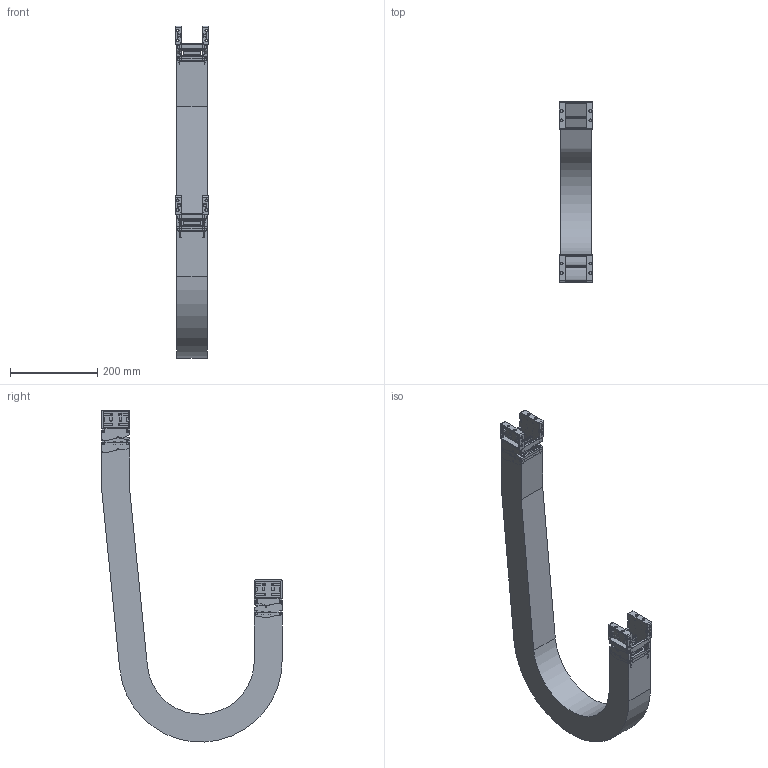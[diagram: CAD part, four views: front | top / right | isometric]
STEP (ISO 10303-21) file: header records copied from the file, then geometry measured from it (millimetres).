
FILE_DESCRIPTION((''),'2;1');
FILE_NAME('KST-50050-150_ASM','2017-12-07T',('KUNI004K'),(''),'PRO/ENGINEER BY PARAMETRIC TECHNOLOGY CORPORATION, 2015200','PRO/ENGINEER BY PARAMETRIC TECHNOLOGY CORPORATION, 2015200','');
FILE_SCHEMA(('AUTOMOTIVE_DESIGN { 1 0 10303 214 1 1 1 1 }'));
Products named in the file (13): 50FBR; 50FBL; 40050C; KST50FB_W050_ASM; KST50150R; KST50150L; 40050H; KST50050-150_1_ASM; KST50050_R150_BODY; 50MBR; 50MBL; KST50MB_W050_ASM; KST-50050-150_ASM
Assembly tree (19 placements, depth 3):
  KST-50050-150_ASM
    KST50FB_W050_ASM
      50FBR
      50FBL
      40050C  x2
    KST50050-150_1_ASM  x2
      KST50150R
      KST50150L
      40050C
      40050H
    KST50050_R150_BODY
    KST50MB_W050_ASM
      50MBR
      50MBL
      40050C  x2
Bounding box: 78 x 414 x 762.32 mm (x, y, z)
Volume: 2344745.4 mm3; surface area: 751058.7 mm2
Topology: 21 solids, 21 shells, 2632 faces, 7134 edges, 4572 vertices
Faces by surface type: plane 1342, cylinder 914, bspline 312, torus 64
Entity records: 66282 total; most frequent: CARTESIAN_POINT 13630, ORIENTED_EDGE 7064, DIRECTION 6382, PRESENTATION_STYLE_ASSIGNMENT 4824, STYLED_ITEM 4824, CURVE_STYLE 3532, EDGE_CURVE 3532, VERTEX_POINT 2280
